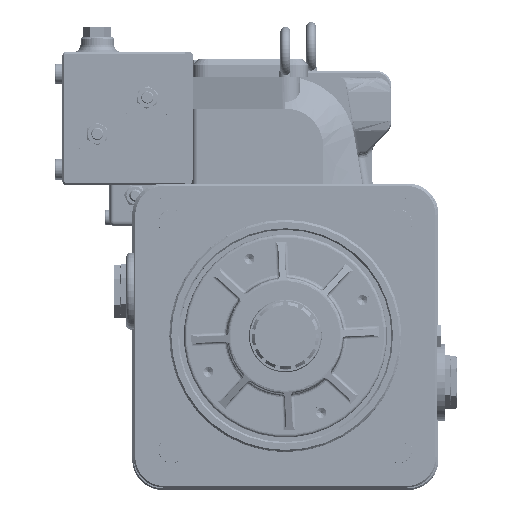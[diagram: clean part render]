
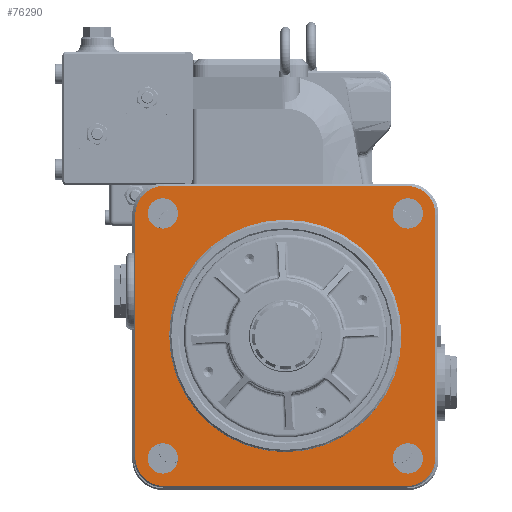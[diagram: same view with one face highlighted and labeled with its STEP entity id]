
A CAD part, top view. The second image highlights one B-rep face of the part: STEP entity #76290.
In plain terms, the highlighted planar face has unit normal (0, 0, 1).
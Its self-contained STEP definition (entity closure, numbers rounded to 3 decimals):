
#66608=CARTESIAN_POINT('',(90.8,-80.8,23.));
#66609=VERTEX_POINT('',#66608);
#66610=CARTESIAN_POINT('',(80.8,-80.8,23.));
#66611=DIRECTION('',(0.0,0.0,-1.0));
#66612=DIRECTION('',(-1.0,0.0,0.0));
#66613=AXIS2_PLACEMENT_3D('',#66610,#66611,#66612);
#66614=CIRCLE('',#66613,10.0);
#66615=EDGE_CURVE('',#66609,#66609,#66614,.T.);
#66636=CARTESIAN_POINT('',(-70.8,80.8,23.));
#66637=VERTEX_POINT('',#66636);
#66638=CARTESIAN_POINT('',(-80.8,80.8,23.));
#66639=DIRECTION('',(0.0,0.0,-1.0));
#66640=DIRECTION('',(-1.0,0.0,0.0));
#66641=AXIS2_PLACEMENT_3D('',#66638,#66639,#66640);
#66642=CIRCLE('',#66641,10.0);
#66643=EDGE_CURVE('',#66637,#66637,#66642,.T.);
#66664=CARTESIAN_POINT('',(90.8,80.8,23.));
#66665=VERTEX_POINT('',#66664);
#66666=CARTESIAN_POINT('',(80.8,80.8,23.));
#66667=DIRECTION('',(0.0,0.0,-1.0));
#66668=DIRECTION('',(-1.0,0.0,0.0));
#66669=AXIS2_PLACEMENT_3D('',#66666,#66667,#66668);
#66670=CIRCLE('',#66669,10.0);
#66671=EDGE_CURVE('',#66665,#66665,#66670,.T.);
#66692=CARTESIAN_POINT('',(-70.8,-80.8,23.));
#66693=VERTEX_POINT('',#66692);
#66694=CARTESIAN_POINT('',(-80.8,-80.8,23.));
#66695=DIRECTION('',(0.0,0.0,-1.0));
#66696=DIRECTION('',(-1.0,0.0,0.0));
#66697=AXIS2_PLACEMENT_3D('',#66694,#66695,#66696);
#66698=CIRCLE('',#66697,10.0);
#66699=EDGE_CURVE('',#66693,#66693,#66698,.T.);
#75959=CARTESIAN_POINT('',(-80.0,99.0,23.));
#75960=VERTEX_POINT('',#75959);
#75967=CARTESIAN_POINT('',(80.0,99.0,23.));
#75968=VERTEX_POINT('',#75967);
#75969=CARTESIAN_POINT('',(-80.0,99.0,23.));
#75970=DIRECTION('',(1.0,0.0,0.0));
#75971=VECTOR('',#75970,160.0);
#75972=LINE('',#75969,#75971);
#75973=EDGE_CURVE('',#75960,#75968,#75972,.T.);
#75992=CARTESIAN_POINT('',(-99.,80.0,23.));
#75993=VERTEX_POINT('',#75992);
#76000=CARTESIAN_POINT('',(-80.,80.,23.));
#76001=DIRECTION('',(0.0,0.0,-1.0));
#76002=DIRECTION('',(0.0,1.0,0.0));
#76003=AXIS2_PLACEMENT_3D('',#76000,#76001,#76002);
#76004=CIRCLE('',#76003,19.0);
#76005=EDGE_CURVE('',#75993,#75960,#76004,.T.);
#76023=CARTESIAN_POINT('',(99.,80.0,23.));
#76024=VERTEX_POINT('',#76023);
#76041=CARTESIAN_POINT('',(80.,80.,23.));
#76042=DIRECTION('',(0.0,0.0,-1.0));
#76043=DIRECTION('',(1.0,0.0,0.0));
#76044=AXIS2_PLACEMENT_3D('',#76041,#76042,#76043);
#76045=CIRCLE('',#76044,19.0);
#76046=EDGE_CURVE('',#75968,#76024,#76045,.T.);
#76058=CARTESIAN_POINT('',(-99.,-80.0,23.));
#76059=VERTEX_POINT('',#76058);
#76066=CARTESIAN_POINT('',(-99.,-80.0,23.));
#76067=DIRECTION('',(0.0,1.0,0.0));
#76068=VECTOR('',#76067,160.0);
#76069=LINE('',#76066,#76068);
#76070=EDGE_CURVE('',#76059,#75993,#76069,.T.);
#76087=CARTESIAN_POINT('',(99.,-80.0,23.));
#76088=VERTEX_POINT('',#76087);
#76104=CARTESIAN_POINT('',(99.,80.0,23.));
#76105=DIRECTION('',(0.0,-1.0,0.0));
#76106=VECTOR('',#76105,160.0);
#76107=LINE('',#76104,#76106);
#76108=EDGE_CURVE('',#76024,#76088,#76107,.T.);
#76120=CARTESIAN_POINT('',(-80.,-99.0,23.));
#76121=VERTEX_POINT('',#76120);
#76128=CARTESIAN_POINT('',(-80.,-80.,23.));
#76129=DIRECTION('',(0.0,0.0,-1.0));
#76130=DIRECTION('',(-1.0,0.0,0.0));
#76131=AXIS2_PLACEMENT_3D('',#76128,#76129,#76130);
#76132=CIRCLE('',#76131,19.);
#76133=EDGE_CURVE('',#76121,#76059,#76132,.T.);
#76151=CARTESIAN_POINT('',(80.,-99.,23.));
#76152=VERTEX_POINT('',#76151);
#76169=CARTESIAN_POINT('',(80.,-80.,23.));
#76170=DIRECTION('',(0.0,0.0,-1.0));
#76171=DIRECTION('',(0.0,-1.0,0.0));
#76172=AXIS2_PLACEMENT_3D('',#76169,#76170,#76171);
#76173=CIRCLE('',#76172,19.);
#76174=EDGE_CURVE('',#76088,#76152,#76173,.T.);
#76192=CARTESIAN_POINT('',(80.,-99.,23.));
#76193=DIRECTION('',(-1.0,0.0,0.0));
#76194=VECTOR('',#76193,160.);
#76195=LINE('',#76192,#76194);
#76196=EDGE_CURVE('',#76152,#76121,#76195,.T.);
#76252=CARTESIAN_POINT('',(0.,0.,23.));
#76253=DIRECTION('',(0.0,0.0,1.0));
#76254=DIRECTION('',(1.0,0.0,0.0));
#76255=AXIS2_PLACEMENT_3D('',#76252,#76253,#76254);
#76256=PLANE('',#76255);
#76257=ORIENTED_EDGE('',*,*,#75973,.F.);
#76258=ORIENTED_EDGE('',*,*,#76005,.F.);
#76259=ORIENTED_EDGE('',*,*,#76070,.F.);
#76260=ORIENTED_EDGE('',*,*,#76133,.F.);
#76261=ORIENTED_EDGE('',*,*,#76196,.F.);
#76262=ORIENTED_EDGE('',*,*,#76174,.F.);
#76263=ORIENTED_EDGE('',*,*,#76108,.F.);
#76264=ORIENTED_EDGE('',*,*,#76046,.F.);
#76265=EDGE_LOOP('',(#76257,#76258,#76259,#76260,#76261,#76262,#76263,#76264));
#76266=FACE_OUTER_BOUND('',#76265,.T.);
#76267=ORIENTED_EDGE('',*,*,#66615,.T.);
#76268=EDGE_LOOP('',(#76267));
#76269=FACE_BOUND('',#76268,.T.);
#76270=ORIENTED_EDGE('',*,*,#66643,.T.);
#76271=EDGE_LOOP('',(#76270));
#76272=FACE_BOUND('',#76271,.T.);
#76273=ORIENTED_EDGE('',*,*,#66671,.T.);
#76274=EDGE_LOOP('',(#76273));
#76275=FACE_BOUND('',#76274,.T.);
#76276=ORIENTED_EDGE('',*,*,#66699,.T.);
#76277=EDGE_LOOP('',(#76276));
#76278=FACE_BOUND('',#76277,.T.);
#76279=CARTESIAN_POINT('',(76.6,0.,23.));
#76280=VERTEX_POINT('',#76279);
#76281=CARTESIAN_POINT('',(0.0,0.0,23.));
#76282=DIRECTION('',(0.0,0.0,1.0));
#76283=DIRECTION('',(-1.0,0.0,0.0));
#76284=AXIS2_PLACEMENT_3D('',#76281,#76282,#76283);
#76285=CIRCLE('',#76284,76.6);
#76286=EDGE_CURVE('',#76280,#76280,#76285,.T.);
#76287=ORIENTED_EDGE('',*,*,#76286,.F.);
#76288=EDGE_LOOP('',(#76287));
#76289=FACE_BOUND('',#76288,.T.);
#76290=ADVANCED_FACE('',(#76266,#76269,#76272,#76275,#76278,#76289),#76256,.T.);
